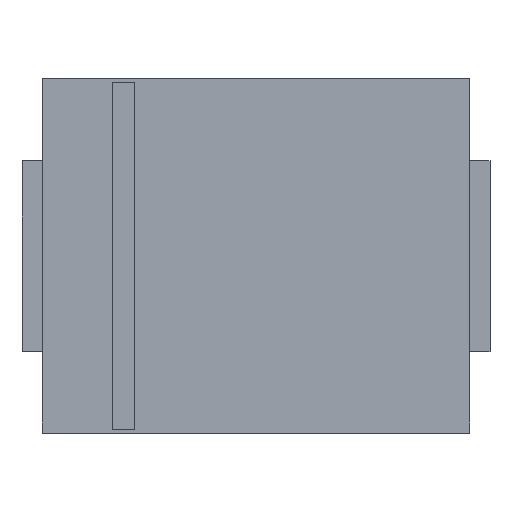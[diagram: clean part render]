
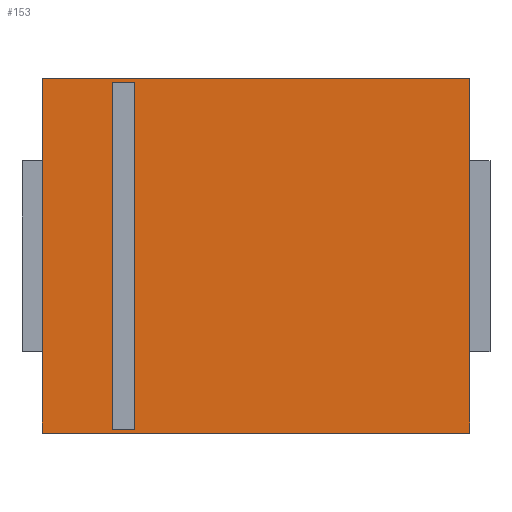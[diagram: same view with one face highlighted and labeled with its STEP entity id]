
A CAD part, top view. The second image highlights one B-rep face of the part: STEP entity #153.
In plain terms, the highlighted planar face has unit normal (0, 0, 1).
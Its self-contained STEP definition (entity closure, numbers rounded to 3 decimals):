
#24 = VERTEX_POINT('',#25);
#25 = CARTESIAN_POINT('',(-2.35,-1.95,2.5));
#31 = EDGE_CURVE('',#24,#32,#34,.T.);
#32 = VERTEX_POINT('',#33);
#33 = CARTESIAN_POINT('',(2.35,-1.95,2.5));
#34 = LINE('',#35,#36);
#35 = CARTESIAN_POINT('',(-2.35,-1.95,2.5));
#36 = VECTOR('',#37,1.);
#37 = DIRECTION('',(1.,0.,0.));
#62 = EDGE_CURVE('',#32,#63,#65,.T.);
#63 = VERTEX_POINT('',#64);
#64 = CARTESIAN_POINT('',(2.35,1.95,2.5));
#65 = LINE('',#66,#67);
#66 = CARTESIAN_POINT('',(2.35,-1.95,2.5));
#67 = VECTOR('',#68,1.);
#68 = DIRECTION('',(0.,1.,0.));
#93 = EDGE_CURVE('',#63,#94,#96,.T.);
#94 = VERTEX_POINT('',#95);
#95 = CARTESIAN_POINT('',(-2.35,1.95,2.5));
#96 = LINE('',#97,#98);
#97 = CARTESIAN_POINT('',(2.35,1.95,2.5));
#98 = VECTOR('',#99,1.);
#99 = DIRECTION('',(-1.,0.,0.));
#124 = EDGE_CURVE('',#94,#24,#125,.T.);
#125 = LINE('',#126,#127);
#126 = CARTESIAN_POINT('',(-2.35,1.95,2.5));
#127 = VECTOR('',#128,1.);
#128 = DIRECTION('',(0.,-1.,0.));
#153 = ADVANCED_FACE('',(#154),#160,.T.);
#154 = FACE_BOUND('',#155,.T.);
#155 = EDGE_LOOP('',(#156,#157,#158,#159));
#156 = ORIENTED_EDGE('',*,*,#31,.T.);
#157 = ORIENTED_EDGE('',*,*,#62,.T.);
#158 = ORIENTED_EDGE('',*,*,#93,.T.);
#159 = ORIENTED_EDGE('',*,*,#124,.T.);
#160 = PLANE('',#161);
#161 = AXIS2_PLACEMENT_3D('',#162,#163,#164);
#162 = CARTESIAN_POINT('',(0.,0.,2.5));
#163 = DIRECTION('',(0.,0.,1.));
#164 = DIRECTION('',(1.,0.,-0.));
